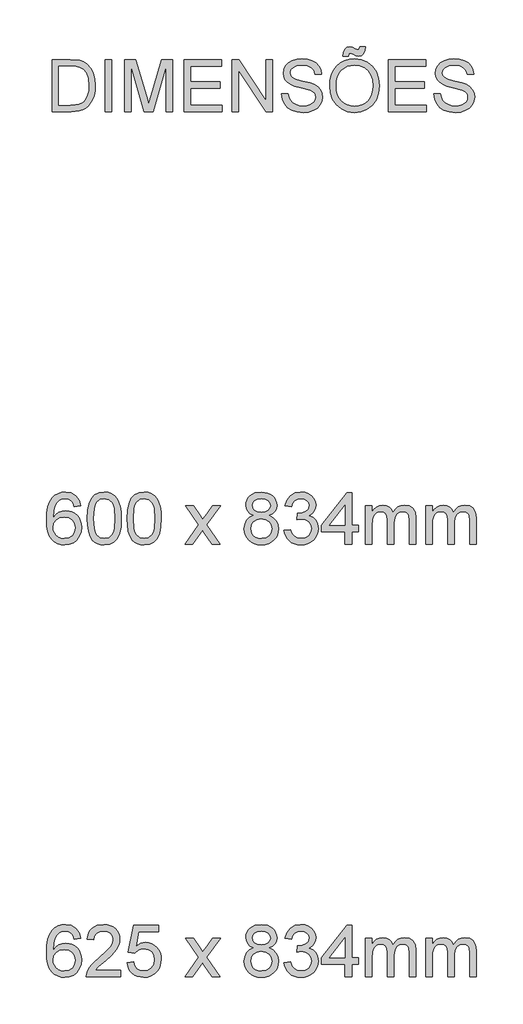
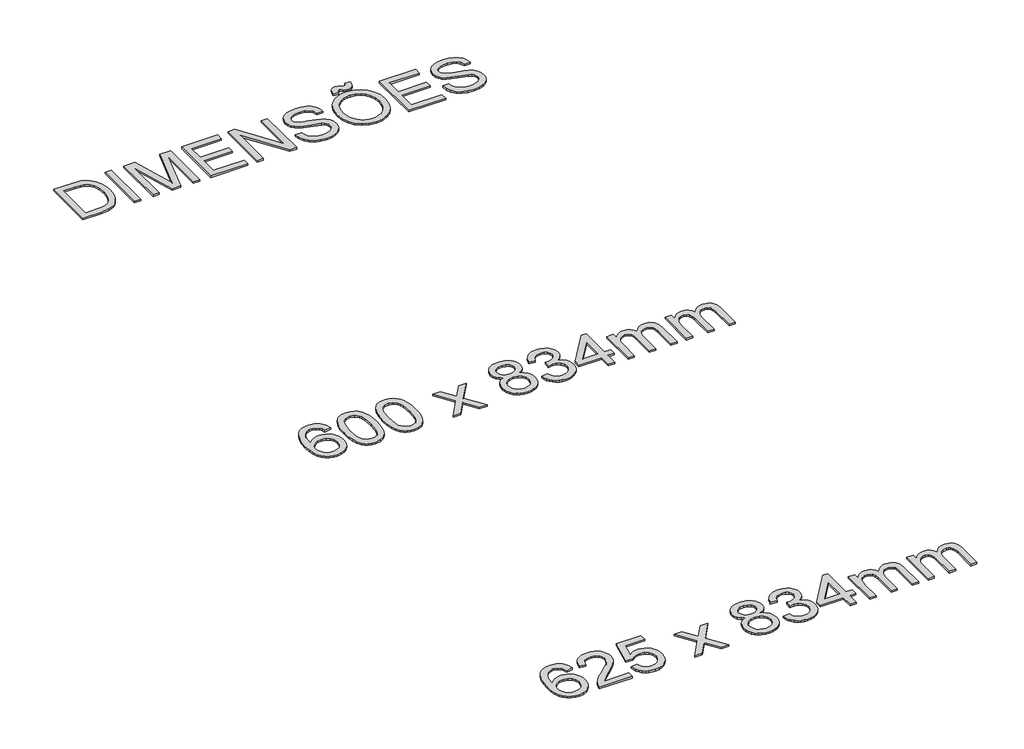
# One storey, part 64 of 67: 3 proxies.
"""IFC4 building model written with IfcOpenShell, lengths in millimetres."""

from ifc_helpers import new_model, si_unit, origin, origin_with_axes, place, context, project, spatial, polyline, outline, extrude, element, save

model = new_model("IFC4")

# Units and contexts
model_context = context("Model", 3, world=origin())
ifc_project = project(units=[si_unit("LENGTHUNIT", "METRE", prefix="MILLI")], contexts=[model_context])

# Site, building, storey
site = spatial("IfcSite", under=ifc_project)
building = spatial("IfcBuilding", under=site)
storey = spatial("IfcBuildingStorey", under=building, Name="Marelli - Linha COLAB - Planta Baixa", Elevation=0.0)

# Proxies
placement = place(None, origin())
element("IfcBuildingElementProxy", 1, Name="300mm Arial", ObjectType="300mm Arial", at=placement, inside=storey, context=model_context, shape_type="SweptSolid", body=[
    extrude(outline(polyline([(-315.334731, 8719.4336799), (-315.334731, 9020.8026104), (-211.3712792, 9020.8026104), (-157.5869315, 9016.4616028), (-133.5642372, 9008.0922874), (-113.2939393, 8994.9037179), (-92.4534243, 8971.9478814), (-77.6093858, 8943.4002386), (-68.7250356, 8909.8126124), (-65.7635855, 8871.7368259), (-67.7685424, 8839.3908015), (-73.783413, 8810.9259321), (-82.9436747, 8786.6917057), (-94.3848047, 8767.0376101), (-107.5549802, 8751.522187), (-121.902378, 8739.7039779), (-138.3742943, 8730.9391893), (-157.9180253, 8724.5840279), (-206.3680841, 8719.4336799), (-315.334731, 8719.4336799)]), holes=[polyline([(-277.6636147, 8757.1047962), (-211.0033972, 8757.1047962), (-183.4306417, 8758.4659596), (-162.5165502, 8762.5494498), (-146.7344127, 8769.1161434), (-134.5575186, 8777.9269172), (-121.4701166, 8794.2332866), (-111.6384703, 8815.3405161), (-105.4856439, 8841.3405761), (-103.4347018, 8872.3254371), (-107.4538126, 8913.3810678), (-119.511145, 8943.6945442), (-137.3258306, 8964.5166651), (-158.6170011, 8977.0982294), (-180.2852506, 8981.6231779), (-212.0334668, 8983.1314941), (-277.6636147, 8983.1314941), (-277.6636147, 8757.1047962)])]), origin_with_axes(), (0.0, 0.0, 1.0), 10.0),
    extrude(outline(polyline([(-9.2569111, 8719.4336799), (-9.2569111, 9020.8026104), (28.4142052, 9020.8026104), (28.4142052, 8719.4336799), (-9.2569111, 8719.4336799)])), origin_with_axes(), (0.0, 0.0, 1.0), 10.0),
    extrude(outline(polyline([(103.7564379, 8719.4336799), (103.7564379, 9020.8026104), (168.5772454, 9020.8026104), (230.2342678, 8808.3875464), (242.6686792, 8764.0209777), (256.1331603, 8812.0663663), (316.7601131, 9020.8026104), (381.5809206, 9020.8026104), (381.5809206, 8719.4336799), (343.9098043, 8719.4336799), (343.9098043, 8983.1314941), (268.1996897, 8719.4336799), (217.1376688, 8719.4336799), (141.4275542, 8983.1314941), (141.4275542, 8719.4336799), (103.7564379, 8719.4336799)])), origin_with_axes(), (0.0, 0.0, 1.0), 10.0),
    extrude(outline(polyline([(447.5053742, 8719.4336799), (447.5053742, 9020.8026104), (664.1142929, 9020.8026104), (664.1142929, 8983.1314941), (485.1764905, 8983.1314941), (485.1764905, 8893.6625928), (654.6965138, 8893.6625928), (654.6965138, 8855.9914765), (485.1764905, 8855.9914765), (485.1764905, 8757.1047962), (668.8231825, 8757.1047962), (668.8231825, 8719.4336799), (447.5053742, 8719.4336799)])), origin_with_axes(), (0.0, 0.0, 1.0), 10.0),
    extrude(outline(polyline([(725.3298569, 8719.4336799), (725.3298569, 9020.8026104), (765.6497236, 9020.8026104), (923.1032175, 8782.0471955), (923.1032175, 9020.8026104), (960.7743338, 9020.8026104), (960.7743338, 8719.4336799), (920.4544672, 8719.4336799), (763.0009732, 8958.2626712), (763.0009732, 8719.4336799), (725.3298569, 8719.4336799)])), origin_with_axes(), (0.0, 0.0, 1.0), 10.0),
    extrude(outline(polyline([(1012.5721187, 8823.0292498), (1050.2432351, 8823.0292498), (1054.5658485, 8802.1243554), (1062.3833409, 8785.3213453), (1074.578629, 8771.9856229), (1092.0346297, 8761.482592), (1113.3717854, 8754.667578), (1137.2105387, 8752.3959067), (1158.1982065, 8754.115755), (1176.5739122, 8759.2753), (1191.463936, 8767.4422803), (1201.9945581, 8778.1844346), (1208.257749, 8790.5176784), (1210.3454794, 8803.4579276), (1208.7819809, 8816.067083), (1204.0914854, 8826.9655871), (1194.5633418, 8836.2638046), (1178.4868986, 8844.0720999), (1123.6356931, 8858.4562859), (1087.6292428, 8867.9752325), (1064.5906329, 8877.0343267), (1045.8378482, 8889.7078614), (1032.5481111, 8905.0669347), (1024.6294511, 8922.7804528), (1021.9898978, 8942.5173218), (1025.2548505, 8964.5810445), (1035.0497087, 8985.154845), (1051.1169548, 9002.5924516), (1073.1990716, 9015.2475923), (1099.7049693, 9022.945523), (1129.0435584, 9025.5114999), (1160.8285628, 9022.8259614), (1188.6404416, 9014.7693457), (1211.4859135, 9001.5071997), (1228.3716971, 8983.2050705), (1239.0586691, 8961.0033921), (1243.3077061, 8936.0425987), (1205.6365898, 8936.0425987), (1198.7204083, 8958.5201886), (1184.2994341, 8974.7437846), (1161.7666619, 8984.5662339), (1130.5150864, 8987.8403836), (1098.5277469, 8984.6030221), (1076.5835859, 8974.8909374), (1063.8916571, 8960.5987219), (1059.6610141, 8943.6209678), (1062.6592524, 8929.1448113), (1071.6539672, 8917.5013461), (1092.9175465, 8907.0902857), (1133.1638368, 8896.458496), (1174.697714, 8886.3601352), (1199.8240543, 8877.5493615), (1221.2991658, 8863.8825453), (1236.28116, 8847.0151559), (1245.0827367, 8827.131134), (1248.0165957, 8804.4144208), (1244.6412784, 8781.1918699), (1234.5153264, 8759.3488764), (1218.0526072, 8740.5501065), (1195.6669877, 8726.460226), (1168.7472227, 8717.6586493), (1138.6820667, 8714.7247904), (1101.7743055, 8717.8885756), (1071.3964498, 8727.379931), (1047.1990115, 8743.235645), (1028.8325029, 8765.4925057), (1017.041885, 8792.6054088), (1012.5721187, 8823.0292498)])), origin_with_axes(), (0.0, 0.0, 1.0), 10.0),
    extrude(outline(polyline([(1290.3966015, 8866.1450196), (1292.9073961, 8901.4938808), (1300.43978, 8932.786843), (1312.9937531, 8960.0239063), (1330.5693154, 8983.2050705), (1352.1134047, 9001.7141334), (1376.5729589, 9014.9348926), (1403.9479778, 9022.8673481), (1434.2384616, 9025.5114999), (1473.767382, 9020.545093), (1509.2128122, 9005.6458722), (1538.6433718, 8981.8623012), (1560.1276804, 8950.2428437), (1573.2610676, 8912.31421), (1577.6388633, 8869.6031104), (1573.0311413, 8826.3217936), (1559.2079754, 8787.859731), (1536.9327206, 8756.1850913), (1506.9687321, 8733.266043), (1471.8268045, 8719.3601035), (1434.0177324, 8714.7247904), (1393.8818067, 8719.8475472), (1358.2340414, 8735.2158175), (1328.8770582, 8759.4408469), (1307.6134789, 8791.1338808), (1294.7008208, 8827.6001836), (1290.3966015, 8866.1450196)]), holes=[polyline([(1328.0677178, 8865.7771376), (1329.9508138, 8840.8025487), (1335.6001017, 8818.6330599), (1345.0155815, 8799.2686714), (1358.1972532, 8782.7093831), (1374.2208134, 8769.4472372), (1392.1619584, 8759.9742758), (1412.0206884, 8754.290499), (1433.7970032, 8752.3959067), (1455.9457986, 8754.3088931), (1476.0390533, 8760.0478522), (1494.0767674, 8769.6127841), (1510.0589408, 8783.0036887), (1523.1440435, 8799.9124649), (1532.4905455, 8820.0310115), (1538.0984466, 8843.3593285), (1539.967747, 8869.897416), (1536.7671737, 8903.2459188), (1527.1654536, 8932.0694731), (1511.4109072, 8955.641512), (1489.7518547, 8973.2354684), (1463.623036, 8984.1891548), (1434.4591908, 8987.8403836), (1413.4393333, 8986.0814478), (1393.936989, 8980.8046405), (1375.952158, 8972.0099615), (1359.4848402, 8959.697411), (1345.7398492, 8943.2737792), (1335.9219984, 8922.1458563), (1330.031288, 8896.3136425), (1328.0677178, 8865.7771376)])]), origin_with_axes(), (0.0, 0.0, 1.0), 10.0),
    extrude(outline(polyline([(1365.7388341, 9039.6381685), (1368.5899196, 9062.7963401), (1377.4374816, 9080.7673756), (1390.7732039, 9092.3004761), (1407.383076, 9096.144843), (1421.2890154, 9093.1098165), (1437.5493996, 9084.0047372), (1452.7797142, 9077.3092848), (1460.7627535, 9081.0984694), (1464.6255144, 9096.144843), (1497.5877412, 9096.144843), (1494.3043944, 9071.4231729), (1485.6315763, 9053.7648371), (1472.7281154, 9043.1698357), (1456.7528397, 9039.6381685), (1442.7549298, 9042.5076481), (1426.9543981, 9051.1160868), (1411.0618959, 9058.4737267), (1402.0855752, 9053.6912607), (1398.7010609, 9039.6381685), (1365.7388341, 9039.6381685)])), origin_with_axes(), (0.0, 0.0, 1.0), 10.0),
    extrude(outline(polyline([(1629.4366483, 8719.4336799), (1629.4366483, 9020.8026104), (1846.045567, 9020.8026104), (1846.045567, 8983.1314941), (1667.1077646, 8983.1314941), (1667.1077646, 8893.6625928), (1836.6277879, 8893.6625928), (1836.6277879, 8855.9914765), (1667.1077646, 8855.9914765), (1667.1077646, 8757.1047962), (1850.7544566, 8757.1047962), (1850.7544566, 8719.4336799), (1629.4366483, 8719.4336799)])), origin_with_axes(), (0.0, 0.0, 1.0), 10.0),
    extrude(outline(polyline([(1893.1344624, 8823.0292498), (1930.8055787, 8823.0292498), (1935.1281922, 8802.1243554), (1942.9456845, 8785.3213453), (1955.1409727, 8771.9856229), (1972.5969734, 8761.482592), (1993.9341291, 8754.667578), (2017.7728824, 8752.3959067), (2038.7605502, 8754.115755), (2057.1362559, 8759.2753), (2072.0262796, 8767.4422803), (2082.5569017, 8778.1844346), (2088.8200927, 8790.5176784), (2090.907823, 8803.4579276), (2089.3443245, 8816.067083), (2084.6538291, 8826.9655871), (2075.1256854, 8836.2638046), (2059.0492422, 8844.0720999), (2004.1980367, 8858.4562859), (1968.1915865, 8867.9752325), (1945.1529765, 8877.0343267), (1926.4001918, 8889.7078614), (1913.1104547, 8905.0669347), (1905.1917948, 8922.7804528), (1902.5522415, 8942.5173218), (1905.8171942, 8964.5810445), (1915.6120523, 8985.154845), (1931.6792984, 9002.5924516), (1953.7614152, 9015.2475923), (1980.267313, 9022.945523), (2009.6059021, 9025.5114999), (2041.3909065, 9022.8259614), (2069.2027853, 9014.7693457), (2092.0482572, 9001.5071997), (2108.9340408, 8983.2050705), (2119.6210127, 8961.0033921), (2123.8700498, 8936.0425987), (2086.1989335, 8936.0425987), (2079.282752, 8958.5201886), (2064.8617777, 8974.7437846), (2042.3290055, 8984.5662339), (2011.0774301, 8987.8403836), (1979.0900906, 8984.6030221), (1957.1459296, 8974.8909374), (1944.4540007, 8960.5987219), (1940.2233578, 8943.6209678), (1943.221596, 8929.1448113), (1952.2163108, 8917.5013461), (1973.4798901, 8907.0902857), (2013.7261804, 8896.458496), (2055.2600577, 8886.3601352), (2080.3863979, 8877.5493615), (2101.8615094, 8863.8825453), (2116.8435037, 8847.0151559), (2125.6450804, 8827.131134), (2128.5789393, 8804.4144208), (2125.203622, 8781.1918699), (2115.0776701, 8759.3488764), (2098.6149508, 8740.5501065), (2076.2293314, 8726.460226), (2049.3095664, 8717.6586493), (2019.2444103, 8714.7247904), (1982.3366492, 8717.8885756), (1951.9587934, 8727.379931), (1927.7613552, 8743.235645), (1909.3948466, 8765.4925057), (1897.6042286, 8792.6054088), (1893.1344624, 8823.0292498)])), origin_with_axes(), (0.0, 0.0, 1.0), 10.0),
])
element("IfcBuildingElementProxy", 2, Name="300mm Arial", ObjectType="300mm Arial", at=placement, inside=storey, context=model_context, shape_type="SweptSolid", body=[
    extrude(outline(polyline([(-150.5235972, 6440.7514882), (-188.1947135, 6436.0425987), (-194.2647664, 6454.7126099), (-202.4685349, 6467.4597211), (-219.5566536, 6479.2135508), (-240.2132276, 6483.1314941), (-257.7244106, 6480.8506257), (-274.205524, 6474.0080206), (-288.3597837, 6459.5962434), (-299.9204754, 6439.7582068), (-307.7287708, 6411.6980077), (-310.6258415, 6372.6197427), (-295.5150886, 6390.2504873), (-277.4060973, 6402.6757017), (-257.3105434, 6410.0425387), (-236.2401021, 6412.498151), (-218.1403079, 6410.8196894), (-201.4384653, 6405.7843046), (-186.1345743, 6397.3919966), (-172.2286349, 6385.6427654), (-160.6725417, 6371.2355867), (-152.4181895, 6354.8694365), (-147.4655781, 6336.5443146), (-145.8147077, 6316.2602211), (-148.9233105, 6289.2852738), (-158.2491191, 6264.2784951), (-173.0195812, 6243.0700981), (-192.4621447, 6227.4902956), (-215.6938927, 6217.9161667), (-241.8319084, 6214.7247904), (-264.288805, 6216.8401119), (-284.5705992, 6223.1860763), (-302.6772911, 6233.7626836), (-318.6088808, 6248.5699339), (-331.5974145, 6268.2332266), (-340.8749386, 6293.377961), (-346.441453, 6324.0041371), (-348.2969578, 6360.1117549), (-346.2368186, 6400.5925699), (-340.0564011, 6435.1412878), (-329.7557053, 6463.7579085), (-315.334731, 6486.442432), (-299.7043448, 6501.4750101), (-281.581558, 6512.2125658), (-260.9663707, 6518.6550992), (-237.8587829, 6520.8026104), (-204.8045856, 6515.4867156), (-178.335476, 6499.5390311), (-159.7942235, 6474.2103557), (-150.5235972, 6440.7514882)]), holes=[polyline([(-310.6258415, 6316.8488323), (-308.4461407, 6300.1561867), (-301.9070382, 6284.2176993), (-291.7534952, 6270.514095), (-278.7304725, 6260.5260988), (-263.0127143, 6254.4284547), (-244.7749644, 6252.3959067), (-219.9153385, 6256.6081555), (-200.3716076, 6269.2449021), (-187.7072699, 6289.1105298), (-183.485824, 6315.0094223), (-187.6520876, 6339.8690481), (-200.1508784, 6358.8241679), (-220.0257031, 6370.826318), (-246.3200687, 6374.8270347), (-271.1429064, 6370.826318), (-291.900648, 6358.8241679), (-305.9445431, 6340.3289006), (-310.6258415, 6316.8488323)])]), origin_with_axes(), (0.0, 0.0, 1.0), 10.0),
    extrude(outline(polyline([(-112.8524809, 6367.690124), (-110.0841689, 6415.9286506), (-101.7792328, 6454.3999103), (-88.0204462, 6483.6925141), (-68.8905825, 6504.3950734), (-44.2516858, 6516.7007261), (-13.9658006, 6520.8026104), (9.2475533, 6518.3745892), (30.032886, 6511.0905257), (47.4153103, 6499.2355284), (60.4199388, 6483.0947059), (70.2423881, 6462.8060138), (78.0782746, 6438.5074081), (83.2102284, 6407.6513057), (84.9208797, 6367.690124), (82.1801588, 6319.7275089), (73.9579963, 6281.3482197), (60.2819831, 6252.0280247), (41.1797105, 6231.242692), (16.4856316, 6218.8542658), (-13.9658006, 6214.7247904), (-34.7143451, 6216.5182151), (-53.1084449, 6221.8984893), (-69.1480999, 6230.8656129), (-82.8333101, 6243.419586), (-95.9666973, 6266.1133066), (-105.3476882, 6294.3896364), (-110.9762827, 6328.2485756), (-112.8524809, 6367.690124)]), holes=[polyline([(-75.1813646, 6367.7637004), (-70.7667807, 6308.507108), (-65.2485507, 6288.2391093), (-57.5230288, 6274.211309), (-37.8045539, 6257.8497573), (-13.9658006, 6252.3959067), (9.8729527, 6257.8681514), (29.5914276, 6274.2848854), (37.3169495, 6288.3356784), (42.8351795, 6308.5990785), (47.2497634, 6367.7637004), (42.9823323, 6425.6867205), (37.6480433, 6445.8880406), (30.1800388, 6460.249234), (10.4983521, 6477.410929), (-14.407259, 6483.1314941), (-37.9884949, 6478.0915107), (-56.9344176, 6462.9715607), (-64.9174569, 6447.3365759), (-70.6196279, 6426.2569376), (-75.1813646, 6367.7637004)])]), origin_with_axes(), (0.0, 0.0, 1.0), 10.0),
    extrude(outline(polyline([(117.8831065, 6367.690124), (120.6514185, 6415.9286506), (128.9563545, 6454.3999103), (142.7151412, 6483.6925141), (161.8450049, 6504.3950734), (186.4839015, 6516.7007261), (216.7697868, 6520.8026104), (239.9831407, 6518.3745892), (260.7684734, 6511.0905257), (278.1508977, 6499.2355284), (291.1555262, 6483.0947059), (300.9779755, 6462.8060138), (308.813862, 6438.5074081), (313.9458158, 6407.6513057), (315.6564671, 6367.690124), (312.9157462, 6319.7275089), (304.6935836, 6281.3482197), (291.0175705, 6252.0280247), (271.9152979, 6231.242692), (247.2212189, 6218.8542658), (216.7697868, 6214.7247904), (196.0212423, 6216.5182151), (177.6271425, 6221.8984893), (161.5874875, 6230.8656129), (147.9022773, 6243.419586), (134.7688901, 6266.1133066), (125.3878992, 6294.3896364), (119.7593047, 6328.2485756), (117.8831065, 6367.690124)]), holes=[polyline([(155.5542228, 6367.7637004), (159.9688067, 6308.507108), (165.4870367, 6288.2391093), (173.2125586, 6274.211309), (192.9310335, 6257.8497573), (216.7697868, 6252.3959067), (240.6085401, 6257.8681514), (260.327015, 6274.2848854), (268.0525369, 6288.3356784), (273.5707668, 6308.5990785), (277.9853508, 6367.7637004), (273.7179196, 6425.6867205), (268.3836307, 6445.8880406), (260.9156262, 6460.249234), (241.2339395, 6477.410929), (216.3283284, 6483.1314941), (192.7470925, 6478.0915107), (173.8011697, 6462.9715607), (165.8181304, 6447.3365759), (160.1159595, 6426.2569376), (155.5542228, 6367.7637004)])]), origin_with_axes(), (0.0, 0.0, 1.0), 10.0),
    extrude(outline(polyline([(452.2142637, 6219.4336799), (532.7068442, 6330.6811953), (456.9231532, 6440.7514882), (502.246215, 6440.7514882), (538.8136854, 6387.7764809), (555.8834099, 6362.7605053), (570.6722661, 6383.2147442), (612.316508, 6440.7514882), (657.6395698, 6440.7514882), (578.029906, 6330.6811953), (654.6965138, 6219.4336799), (609.373452, 6219.4336799), (563.2410498, 6286.3146267), (554.7797639, 6298.5283089), (497.5373255, 6219.4336799), (452.2142637, 6219.4336799)])), origin_with_axes(), (0.0, 0.0, 1.0), 10.0),
    extrude(outline(polyline([(850.8511937, 6385.4220362), (830.6820633, 6395.35485), (816.5278035, 6408.819331), (808.1676852, 6425.5395677), (805.3809791, 6445.2396486), (806.8984923, 6460.6033204), (811.451032, 6474.6886023), (819.0385981, 6487.4954942), (829.6611907, 6499.0239963), (842.8083735, 6508.5521399), (857.9697103, 6515.3579569), (894.3348455, 6520.8026104), (930.9207099, 6515.2291982), (946.2475935, 6508.2624329), (959.5971114, 6498.5089615), (970.4128421, 6486.7551317), (978.138364, 6473.7872914), (982.7736771, 6459.6054405), (984.3187815, 6444.209579), (981.5688636, 6425.1440946), (973.3191099, 6408.7089665), (959.4775498, 6395.3272589), (939.9522129, 6385.4220362), (963.1379756, 6373.4750684), (980.0145622, 6355.8811119), (990.306061, 6333.4862955), (993.7365606, 6307.1367476), (992.0351064, 6288.3471747), (986.9307437, 6271.1211003), (978.4234725, 6255.4585243), (966.5132929, 6241.3594468), (951.8256043, 6229.7067846), (934.985806, 6221.3834545), (915.993898, 6216.3894564), (894.8498803, 6214.7247904), (873.7058626, 6216.3963542), (854.7139546, 6221.4110457), (837.8741563, 6229.7688647), (823.1864676, 6241.4698114), (811.276288, 6255.6677572), (802.7690169, 6271.5165734), (797.6646542, 6289.0162601), (795.9632, 6308.1668172), (799.5316553, 6335.5372376), (810.2370214, 6358.0516157), (827.5274752, 6374.9373993), (850.8511937, 6385.4220362)]), holes=[polyline([(843.0520954, 6444.1360026), (846.3906245, 6427.6916774), (856.4062118, 6414.5582902), (872.8045517, 6405.9498515), (895.2913387, 6403.0803719), (917.2538938, 6405.9314574), (933.4039134, 6414.4847138), (943.3367273, 6427.1766426), (946.6476652, 6442.4437454), (943.2263627, 6458.2902624), (932.962455, 6471.3960584), (916.5917062, 6480.1976352), (894.8498803, 6483.1314941), (872.9700986, 6480.2620145), (856.626941, 6471.6535758), (846.4458068, 6459.0352234), (843.0520954, 6444.1360026)]), polyline([(833.6343163, 6309.4911924), (839.9250984, 6281.1274905), (848.6347046, 6268.9597935), (862.1819591, 6259.9006994), (878.4055551, 6254.2721049), (895.1441859, 6252.3959067), (920.7855609, 6256.3414411), (940.0257893, 6268.1780443), (952.0555305, 6286.1030945), (956.0654443, 6308.31397), (951.9267718, 6330.9019245), (939.5107545, 6349.2224478), (919.8290678, 6361.3625537), (893.8933871, 6365.4092556), (868.610697, 6361.417736), (849.5636067, 6349.443177), (837.6166389, 6331.4721416), (833.6343163, 6309.4911924)])]), origin_with_axes(), (0.0, 0.0, 1.0), 10.0),
    extrude(outline(polyline([(1026.6987874, 6299.4848021), (1064.3699037, 6304.1936916), (1072.8035984, 6280.5204852), (1085.1552364, 6264.5360125), (1102.0318229, 6255.4309332), (1124.0403633, 6252.3959067), (1149.8656793, 6256.5713673), (1169.8048835, 6269.0977493), (1182.5519946, 6287.7861546), (1186.8010317, 6310.4476855), (1182.5887828, 6331.9595852), (1169.9520363, 6349.4063888), (1150.8221725, 6360.9670805), (1127.130572, 6364.8206444), (1100.7166448, 6360.7003661), (1104.9104995, 6398.3714824), (1110.9437643, 6397.930024), (1133.5133247, 6400.6339567), (1153.6916521, 6408.7457546), (1167.9286853, 6422.4677531), (1172.674363, 6442.002287), (1169.2346664, 6458.2718683), (1158.9155764, 6471.4696348), (1143.170227, 6480.2160293), (1123.4517521, 6483.1314941), (1103.696489, 6480.1884381), (1087.5464694, 6471.3592702), (1075.7558514, 6456.6439904), (1069.0787932, 6436.0425987), (1031.4076769, 6440.7514882), (1042.4993191, 6474.5782377), (1062.2361881, 6499.8333367), (1089.2387265, 6515.5602919), (1122.1273769, 6520.8026104), (1145.8097803, 6518.2182394), (1167.5608033, 6510.4651263), (1185.8997208, 6498.23305), (1199.3458077, 6482.2117891), (1207.5955614, 6463.75331), (1210.3454794, 6444.209579), (1207.7335172, 6425.9994202), (1199.8976307, 6409.4815186), (1186.9481845, 6395.4100323), (1168.9955431, 6384.5391194), (1192.576779, 6375.0109757), (1210.0511738, 6358.7873797), (1220.8669044, 6336.7512482), (1224.472148, 6309.7854979), (1222.6695262, 6290.6740283), (1217.2616609, 6273.0708748), (1208.248552, 6256.9760375), (1195.6301995, 6242.3895164), (1180.2573307, 6230.2861988), (1162.9806725, 6221.6409719), (1143.800225, 6216.4538358), (1122.7159881, 6214.7247904), (1103.6597008, 6216.2009169), (1086.2956706, 6220.6292964), (1070.6238976, 6228.0099289), (1056.6443818, 6238.3428145), (1044.9227417, 6251.0209477), (1036.0245959, 6265.4373234), (1029.9499445, 6281.5919415), (1026.6987874, 6299.4848021)])), origin_with_axes(), (0.0, 0.0, 1.0), 10.0),
    extrude(outline(polyline([(1379.8655027, 6219.4336799), (1379.8655027, 6290.067023), (1243.3077061, 6290.067023), (1243.3077061, 6327.7381393), (1389.2832818, 6516.0937208), (1417.536619, 6516.0937208), (1417.536619, 6327.7381393), (1455.2077353, 6327.7381393), (1455.2077353, 6290.067023), (1417.536619, 6290.067023), (1417.536619, 6219.4336799), (1379.8655027, 6219.4336799)]), holes=[polyline([(1379.8655027, 6327.7381393), (1379.8655027, 6444.1360026), (1289.6608375, 6327.7381393), (1379.8655027, 6327.7381393)])]), origin_with_axes(), (0.0, 0.0, 1.0), 10.0),
    extrude(outline(polyline([(1497.5877412, 6219.4336799), (1497.5877412, 6440.7514882), (1535.2588575, 6440.7514882), (1535.2588575, 6404.3311707), (1546.5896229, 6421.0606044), (1561.15775, 6434.1664005), (1578.4665978, 6442.6368835), (1598.0195259, 6445.4603778), (1618.9704055, 6442.5817012), (1635.7642186, 6433.9456713), (1648.3089946, 6420.1225054), (1656.5127631, 6401.6824203), (1670.2439586, 6420.8352767), (1685.9065345, 6434.5158884), (1703.5004909, 6442.7242554), (1723.0258278, 6445.4603778), (1751.3435444, 6440.9078381), (1772.285227, 6427.250219), (1785.2254762, 6404.1196386), (1789.5388926, 6371.1482147), (1789.5388926, 6219.4336799), (1751.8677763, 6219.4336799), (1751.8677763, 6354.961407), (1748.3728973, 6386.4153175), (1743.4616727, 6395.0881356), (1735.7177567, 6401.9031495), (1725.7573516, 6406.3177335), (1714.1966599, 6407.7892615), (1693.7884063, 6404.018471), (1677.150943, 6392.7060997), (1666.086892, 6373.0795952), (1662.398875, 6344.3664055), (1662.398875, 6219.4336799), (1624.7277587, 6219.4336799), (1624.7277587, 6359.1552617), (1622.5480579, 6380.4556292), (1616.0089554, 6395.6491556), (1604.503446, 6404.754235), (1587.4245244, 6407.7892615), (1572.9115797, 6405.7659105), (1559.5390692, 6399.6958576), (1548.5026093, 6389.7262555), (1540.9978166, 6376.0042571), (1536.6935973, 6356.9663638), (1535.2588575, 6331.0490773), (1535.2588575, 6219.4336799), (1497.5877412, 6219.4336799)])), origin_with_axes(), (0.0, 0.0, 1.0), 10.0),
    extrude(outline(polyline([(1846.045567, 6219.4336799), (1846.045567, 6440.7514882), (1883.7166833, 6440.7514882), (1883.7166833, 6404.3311707), (1895.0474488, 6421.0606044), (1909.6155758, 6434.1664005), (1926.9244237, 6442.6368835), (1946.4773517, 6445.4603778), (1967.4282313, 6442.5817012), (1984.2220444, 6433.9456713), (1996.7668204, 6420.1225054), (2004.9705889, 6401.6824203), (2018.7017844, 6420.8352767), (2034.3643603, 6434.5158884), (2051.9583168, 6442.7242554), (2071.4836537, 6445.4603778), (2099.8013702, 6440.9078381), (2120.7430528, 6427.250219), (2133.683302, 6404.1196386), (2137.9967184, 6371.1482147), (2137.9967184, 6219.4336799), (2100.3256021, 6219.4336799), (2100.3256021, 6354.961407), (2096.8307231, 6386.4153175), (2091.9194985, 6395.0881356), (2084.1755825, 6401.9031495), (2074.2151775, 6406.3177335), (2062.6544858, 6407.7892615), (2042.2462321, 6404.018471), (2025.6087689, 6392.7060997), (2014.5447179, 6373.0795952), (2010.8567009, 6344.3664055), (2010.8567009, 6219.4336799), (1973.1855846, 6219.4336799), (1973.1855846, 6359.1552617), (1971.0058837, 6380.4556292), (1964.4667813, 6395.6491556), (1952.9612719, 6404.754235), (1935.8823502, 6407.7892615), (1921.3694055, 6405.7659105), (1907.996895, 6399.6958576), (1896.9604352, 6389.7262555), (1889.4556424, 6376.0042571), (1885.1514231, 6356.9663638), (1883.7166833, 6331.0490773), (1883.7166833, 6219.4336799), (1846.045567, 6219.4336799)])), origin_with_axes(), (0.0, 0.0, 1.0), 10.0),
])
element("IfcBuildingElementProxy", 3, Name="300mm Arial", ObjectType="300mm Arial", at=placement, inside=storey, context=model_context, shape_type="SweptSolid", body=[
    extrude(outline(polyline([(-150.5235972, 3940.7514882), (-188.1947135, 3936.0425987), (-194.2647664, 3954.7126099), (-202.4685349, 3967.4597211), (-219.5566536, 3979.2135508), (-240.2132276, 3983.1314941), (-257.7244106, 3980.8506257), (-274.205524, 3974.0080206), (-288.3597837, 3959.5962434), (-299.9204754, 3939.7582068), (-307.7287708, 3911.6980077), (-310.6258415, 3872.6197427), (-295.5150886, 3890.2504873), (-277.4060973, 3902.6757017), (-257.3105434, 3910.0425387), (-236.2401021, 3912.498151), (-218.1403079, 3910.8196894), (-201.4384653, 3905.7843046), (-186.1345743, 3897.3919966), (-172.2286349, 3885.6427654), (-160.6725417, 3871.2355867), (-152.4181895, 3854.8694365), (-147.4655781, 3836.5443146), (-145.8147077, 3816.2602211), (-148.9233105, 3789.2852738), (-158.2491191, 3764.2784951), (-173.0195812, 3743.0700981), (-192.4621447, 3727.4902956), (-215.6938927, 3717.9161667), (-241.8319084, 3714.7247904), (-264.288805, 3716.8401119), (-284.5705992, 3723.1860763), (-302.6772911, 3733.7626836), (-318.6088808, 3748.5699339), (-331.5974145, 3768.2332266), (-340.8749386, 3793.377961), (-346.441453, 3824.0041371), (-348.2969578, 3860.1117549), (-346.2368186, 3900.5925699), (-340.0564011, 3935.1412878), (-329.7557053, 3963.7579085), (-315.334731, 3986.442432), (-299.7043448, 4001.4750101), (-281.581558, 4012.2125658), (-260.9663707, 4018.6550992), (-237.8587829, 4020.8026104), (-204.8045856, 4015.4867156), (-178.335476, 3999.5390311), (-159.7942235, 3974.2103557), (-150.5235972, 3940.7514882)]), holes=[polyline([(-310.6258415, 3816.8488323), (-308.4461407, 3800.1561867), (-301.9070382, 3784.2176993), (-291.7534952, 3770.514095), (-278.7304725, 3760.5260988), (-263.0127143, 3754.4284547), (-244.7749644, 3752.3959067), (-219.9153385, 3756.6081555), (-200.3716076, 3769.2449021), (-187.7072699, 3789.1105298), (-183.485824, 3815.0094223), (-187.6520876, 3839.8690481), (-200.1508784, 3858.8241679), (-220.0257031, 3870.826318), (-246.3200687, 3874.8270347), (-271.1429064, 3870.826318), (-291.900648, 3858.8241679), (-305.9445431, 3840.3289006), (-310.6258415, 3816.8488323)])]), origin_with_axes(), (0.0, 0.0, 1.0), 10.0),
    extrude(outline(polyline([(80.2119902, 3757.1047962), (80.2119902, 3719.4336799), (-117.5613704, 3719.4336799), (-113.5146685, 3745.4061488), (-104.2256481, 3765.7040379), (-90.6324084, 3785.3949217), (-70.9691157, 3806.0055104), (-43.4699366, 3829.0625145), (-2.8189761, 3865.1701323), (21.5716001, 3891.8231829), (33.7668883, 3913.4546442), (37.8319843, 3934.4974943), (33.9968145, 3953.3606436), (22.4913051, 3969.0416137), (4.8053782, 3979.609024), (-17.5710441, 3983.1314941), (-41.0695066, 3979.6917974), (-59.3256506, 3969.3727075), (-71.1070715, 3952.9835646), (-75.1813646, 3931.3337092), (-112.8524809, 3936.0425987), (-103.7198104, 3972.4813103), (-95.1734518, 3987.0172476), (-83.9737443, 3999.0975727), (-70.3782053, 4008.5935267), (-54.6443522, 4015.376351), (-16.7617038, 4020.8026104), (3.42812, 4019.2942942), (21.3968562, 4014.7693457), (37.1445048, 4007.2277648), (50.671066, 3996.6695515), (61.5350811, 3983.8764551), (69.295092, 3969.6302249), (73.9510985, 3953.9308607), (75.5031006, 3936.7783627), (73.8292376, 3918.761342), (68.8076483, 3901.057021), (59.895707, 3883.0491973), (46.5507876, 3864.1216686), (25.2780112, 3841.5245171), (-7.4175011, 3812.5078247), (-50.7540001, 3776.2714482), (-67.7501483, 3757.1047962), (80.2119902, 3757.1047962)])), origin_with_axes(), (0.0, 0.0, 1.0), 10.0),
    extrude(outline(polyline([(117.8831065, 3799.4848021), (155.5542228, 3804.1936916), (162.4704043, 3781.578146), (174.5369337, 3765.3821411), (191.6986288, 3755.6424653), (213.9003072, 3752.3959067), (240.9028457, 3756.9116582), (261.1363554, 3770.4589127), (273.7731019, 3791.4741716), (277.9853508, 3818.3939366), (274.0398164, 3843.7410061), (262.2032132, 3863.1283872), (242.3835707, 3875.43404), (214.4889184, 3879.5359242), (196.2143803, 3877.8988494), (181.416327, 3872.9876247), (160.2631123, 3855.9914765), (122.591996, 3860.7003661), (155.5542228, 4016.0937208), (301.5297985, 4016.0937208), (301.5297985, 3978.4226045), (186.014852, 3978.4226045), (169.9016206, 3895.4284264), (196.8121885, 3911.762387), (225.0103435, 3917.2070405), (243.3561587, 3915.5193819), (260.2074534, 3910.4564059), (275.5642274, 3902.0181127), (289.4264808, 3890.2045021), (300.9020998, 3875.7375426), (309.0989705, 3859.3392027), (314.0170929, 3841.0094823), (315.6564671, 3820.7483814), (309.7519611, 3783.0772651), (302.3713285, 3766.283452), (292.038443, 3750.8508023), (276.3850641, 3735.0456721), (258.119723, 3723.7562934), (237.2424198, 3716.9826661), (213.7531544, 3714.7247904), (176.7534228, 3720.5281289), (161.074752, 3727.782302), (147.2768779, 3737.9381443), (135.7966604, 3750.4898181), (127.0709593, 3764.9314857), (117.8831065, 3799.4848021)])), origin_with_axes(), (0.0, 0.0, 1.0), 10.0),
    extrude(outline(polyline([(452.2142637, 3719.4336799), (532.7068442, 3830.6811953), (456.9231532, 3940.7514882), (502.246215, 3940.7514882), (538.8136854, 3887.7764809), (555.8834099, 3862.7605053), (570.6722661, 3883.2147442), (612.316508, 3940.7514882), (657.6395698, 3940.7514882), (578.029906, 3830.6811953), (654.6965138, 3719.4336799), (609.373452, 3719.4336799), (563.2410498, 3786.3146267), (554.7797639, 3798.5283089), (497.5373255, 3719.4336799), (452.2142637, 3719.4336799)])), origin_with_axes(), (0.0, 0.0, 1.0), 10.0),
    extrude(outline(polyline([(850.8511937, 3885.4220362), (830.6820633, 3895.35485), (816.5278035, 3908.819331), (808.1676852, 3925.5395677), (805.3809791, 3945.2396486), (806.8984923, 3960.6033204), (811.451032, 3974.6886023), (819.0385981, 3987.4954942), (829.6611907, 3999.0239963), (842.8083735, 4008.5521399), (857.9697103, 4015.3579569), (894.3348455, 4020.8026104), (930.9207099, 4015.2291982), (946.2475935, 4008.2624329), (959.5971114, 3998.5089615), (970.4128421, 3986.7551317), (978.138364, 3973.7872914), (982.7736771, 3959.6054405), (984.3187815, 3944.209579), (981.5688636, 3925.1440946), (973.3191099, 3908.7089665), (959.4775498, 3895.3272589), (939.9522129, 3885.4220362), (963.1379756, 3873.4750684), (980.0145622, 3855.8811119), (990.306061, 3833.4862955), (993.7365606, 3807.1367476), (992.0351064, 3788.3471747), (986.9307437, 3771.1211003), (978.4234725, 3755.4585243), (966.5132929, 3741.3594468), (951.8256043, 3729.7067846), (934.985806, 3721.3834545), (915.993898, 3716.3894564), (894.8498803, 3714.7247904), (873.7058626, 3716.3963542), (854.7139546, 3721.4110457), (837.8741563, 3729.7688647), (823.1864676, 3741.4698114), (811.276288, 3755.6677572), (802.7690169, 3771.5165734), (797.6646542, 3789.0162601), (795.9632, 3808.1668172), (799.5316553, 3835.5372376), (810.2370214, 3858.0516157), (827.5274752, 3874.9373993), (850.8511937, 3885.4220362)]), holes=[polyline([(843.0520954, 3944.1360026), (846.3906245, 3927.6916774), (856.4062118, 3914.5582902), (872.8045517, 3905.9498515), (895.2913387, 3903.0803719), (917.2538938, 3905.9314574), (933.4039134, 3914.4847138), (943.3367273, 3927.1766426), (946.6476652, 3942.4437454), (943.2263627, 3958.2902624), (932.962455, 3971.3960584), (916.5917062, 3980.1976352), (894.8498803, 3983.1314941), (872.9700986, 3980.2620145), (856.626941, 3971.6535758), (846.4458068, 3959.0352234), (843.0520954, 3944.1360026)]), polyline([(833.6343163, 3809.4911924), (839.9250984, 3781.1274905), (848.6347046, 3768.9597935), (862.1819591, 3759.9006994), (878.4055551, 3754.2721049), (895.1441859, 3752.3959067), (920.7855609, 3756.3414411), (940.0257893, 3768.1780443), (952.0555305, 3786.1030945), (956.0654443, 3808.31397), (951.9267718, 3830.9019245), (939.5107545, 3849.2224478), (919.8290678, 3861.3625537), (893.8933871, 3865.4092556), (868.610697, 3861.417736), (849.5636067, 3849.443177), (837.6166389, 3831.4721416), (833.6343163, 3809.4911924)])]), origin_with_axes(), (0.0, 0.0, 1.0), 10.0),
    extrude(outline(polyline([(1026.6987874, 3799.4848021), (1064.3699037, 3804.1936916), (1072.8035984, 3780.5204852), (1085.1552364, 3764.5360125), (1102.0318229, 3755.4309332), (1124.0403633, 3752.3959067), (1149.8656793, 3756.5713673), (1169.8048835, 3769.0977493), (1182.5519946, 3787.7861546), (1186.8010317, 3810.4476855), (1182.5887828, 3831.9595852), (1169.9520363, 3849.4063888), (1150.8221725, 3860.9670805), (1127.130572, 3864.8206444), (1100.7166448, 3860.7003661), (1104.9104995, 3898.3714824), (1110.9437643, 3897.930024), (1133.5133247, 3900.6339567), (1153.6916521, 3908.7457546), (1167.9286853, 3922.4677531), (1172.674363, 3942.002287), (1169.2346664, 3958.2718683), (1158.9155764, 3971.4696348), (1143.170227, 3980.2160293), (1123.4517521, 3983.1314941), (1103.696489, 3980.1884381), (1087.5464694, 3971.3592702), (1075.7558514, 3956.6439904), (1069.0787932, 3936.0425987), (1031.4076769, 3940.7514882), (1042.4993191, 3974.5782377), (1062.2361881, 3999.8333367), (1089.2387265, 4015.5602919), (1122.1273769, 4020.8026104), (1145.8097803, 4018.2182394), (1167.5608033, 4010.4651263), (1185.8997208, 3998.23305), (1199.3458077, 3982.2117891), (1207.5955614, 3963.75331), (1210.3454794, 3944.209579), (1207.7335172, 3925.9994202), (1199.8976307, 3909.4815186), (1186.9481845, 3895.4100323), (1168.9955431, 3884.5391194), (1192.576779, 3875.0109757), (1210.0511738, 3858.7873797), (1220.8669044, 3836.7512482), (1224.472148, 3809.7854979), (1222.6695262, 3790.6740283), (1217.2616609, 3773.0708748), (1208.248552, 3756.9760375), (1195.6301995, 3742.3895164), (1180.2573307, 3730.2861988), (1162.9806725, 3721.6409719), (1143.800225, 3716.4538358), (1122.7159881, 3714.7247904), (1103.6597008, 3716.2009169), (1086.2956706, 3720.6292964), (1070.6238976, 3728.0099289), (1056.6443818, 3738.3428145), (1044.9227417, 3751.0209477), (1036.0245959, 3765.4373234), (1029.9499445, 3781.5919415), (1026.6987874, 3799.4848021)])), origin_with_axes(), (0.0, 0.0, 1.0), 10.0),
    extrude(outline(polyline([(1379.8655027, 3719.4336799), (1379.8655027, 3790.067023), (1243.3077061, 3790.067023), (1243.3077061, 3827.7381393), (1389.2832818, 4016.0937208), (1417.536619, 4016.0937208), (1417.536619, 3827.7381393), (1455.2077353, 3827.7381393), (1455.2077353, 3790.067023), (1417.536619, 3790.067023), (1417.536619, 3719.4336799), (1379.8655027, 3719.4336799)]), holes=[polyline([(1379.8655027, 3827.7381393), (1379.8655027, 3944.1360026), (1289.6608375, 3827.7381393), (1379.8655027, 3827.7381393)])]), origin_with_axes(), (0.0, 0.0, 1.0), 10.0),
    extrude(outline(polyline([(1497.5877412, 3719.4336799), (1497.5877412, 3940.7514882), (1535.2588575, 3940.7514882), (1535.2588575, 3904.3311707), (1546.5896229, 3921.0606044), (1561.15775, 3934.1664005), (1578.4665978, 3942.6368835), (1598.0195259, 3945.4603778), (1618.9704055, 3942.5817012), (1635.7642186, 3933.9456713), (1648.3089946, 3920.1225054), (1656.5127631, 3901.6824203), (1670.2439586, 3920.8352767), (1685.9065345, 3934.5158884), (1703.5004909, 3942.7242554), (1723.0258278, 3945.4603778), (1751.3435444, 3940.9078381), (1772.285227, 3927.250219), (1785.2254762, 3904.1196386), (1789.5388926, 3871.1482147), (1789.5388926, 3719.4336799), (1751.8677763, 3719.4336799), (1751.8677763, 3854.961407), (1748.3728973, 3886.4153175), (1743.4616727, 3895.0881356), (1735.7177567, 3901.9031495), (1725.7573516, 3906.3177335), (1714.1966599, 3907.7892615), (1693.7884063, 3904.018471), (1677.150943, 3892.7060997), (1666.086892, 3873.0795952), (1662.398875, 3844.3664055), (1662.398875, 3719.4336799), (1624.7277587, 3719.4336799), (1624.7277587, 3859.1552617), (1622.5480579, 3880.4556292), (1616.0089554, 3895.6491556), (1604.503446, 3904.754235), (1587.4245244, 3907.7892615), (1572.9115797, 3905.7659105), (1559.5390692, 3899.6958576), (1548.5026093, 3889.7262555), (1540.9978166, 3876.0042571), (1536.6935973, 3856.9663638), (1535.2588575, 3831.0490773), (1535.2588575, 3719.4336799), (1497.5877412, 3719.4336799)])), origin_with_axes(), (0.0, 0.0, 1.0), 10.0),
    extrude(outline(polyline([(1846.045567, 3719.4336799), (1846.045567, 3940.7514882), (1883.7166833, 3940.7514882), (1883.7166833, 3904.3311707), (1895.0474488, 3921.0606044), (1909.6155758, 3934.1664005), (1926.9244237, 3942.6368835), (1946.4773517, 3945.4603778), (1967.4282313, 3942.5817012), (1984.2220444, 3933.9456713), (1996.7668204, 3920.1225054), (2004.9705889, 3901.6824203), (2018.7017844, 3920.8352767), (2034.3643603, 3934.5158884), (2051.9583168, 3942.7242554), (2071.4836537, 3945.4603778), (2099.8013702, 3940.9078381), (2120.7430528, 3927.250219), (2133.683302, 3904.1196386), (2137.9967184, 3871.1482147), (2137.9967184, 3719.4336799), (2100.3256021, 3719.4336799), (2100.3256021, 3854.961407), (2096.8307231, 3886.4153175), (2091.9194985, 3895.0881356), (2084.1755825, 3901.9031495), (2074.2151775, 3906.3177335), (2062.6544858, 3907.7892615), (2042.2462321, 3904.018471), (2025.6087689, 3892.7060997), (2014.5447179, 3873.0795952), (2010.8567009, 3844.3664055), (2010.8567009, 3719.4336799), (1973.1855846, 3719.4336799), (1973.1855846, 3859.1552617), (1971.0058837, 3880.4556292), (1964.4667813, 3895.6491556), (1952.9612719, 3904.754235), (1935.8823502, 3907.7892615), (1921.3694055, 3905.7659105), (1907.996895, 3899.6958576), (1896.9604352, 3889.7262555), (1889.4556424, 3876.0042571), (1885.1514231, 3856.9663638), (1883.7166833, 3831.0490773), (1883.7166833, 3719.4336799), (1846.045567, 3719.4336799)])), origin_with_axes(), (0.0, 0.0, 1.0), 10.0),
])

save(model, "model.ifc")
